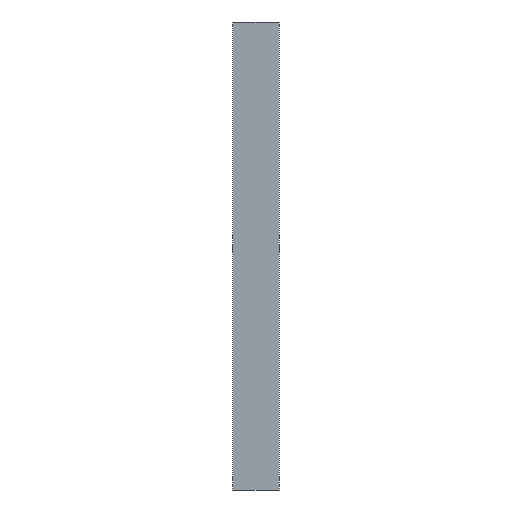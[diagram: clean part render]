
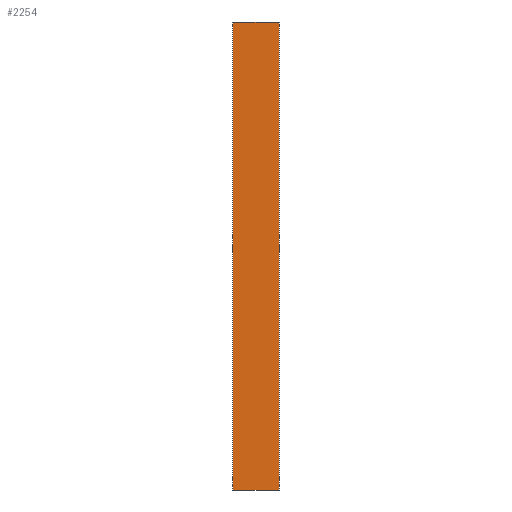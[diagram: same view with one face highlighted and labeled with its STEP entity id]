
A CAD part, front view. The second image highlights one B-rep face of the part: STEP entity #2254.
In plain terms, the highlighted planar face has unit normal (0, -1, 0).
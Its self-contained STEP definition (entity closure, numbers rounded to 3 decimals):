
#38 = CARTESIAN_POINT ( 'NONE',  ( -150., 0., 1500. ) ) ;
#199 = CARTESIAN_POINT ( 'NONE',  ( 150., 0., 1500. ) ) ;
#233 = ORIENTED_EDGE ( 'NONE', *, *, #899, .T. ) ;
#290 = EDGE_CURVE ( 'NONE', #565, #874, #1413, .T. ) ;
#313 = EDGE_CURVE ( 'NONE', #2463, #874, #1400, .T. ) ;
#333 = AXIS2_PLACEMENT_3D ( 'NONE', #38, #628, #1792 ) ;
#455 = DIRECTION ( 'NONE',  ( 0., 0., -1. ) ) ;
#562 = DIRECTION ( 'NONE',  ( 0., 0., -1. ) ) ;
#565 = VERTEX_POINT ( 'NONE', #2209 ) ;
#576 = VERTEX_POINT ( 'NONE', #1840 ) ;
#628 = DIRECTION ( 'NONE',  ( 0., 1., 0. ) ) ;
#640 = VECTOR ( 'NONE', #1240, 1000. ) ;
#735 = VECTOR ( 'NONE', #562, 1000. ) ;
#874 = VERTEX_POINT ( 'NONE', #2404 ) ;
#898 = ORIENTED_EDGE ( 'NONE', *, *, #2261, .F. ) ;
#899 = EDGE_CURVE ( 'NONE', #576, #565, #2085, .T. ) ;
#1035 = PLANE ( 'NONE',  #333 ) ;
#1045 = ORIENTED_EDGE ( 'NONE', *, *, #313, .F. ) ;
#1064 = CARTESIAN_POINT ( 'NONE',  ( -150., 0., 1500. ) ) ;
#1091 = VECTOR ( 'NONE', #455, 1000. ) ;
#1161 = CARTESIAN_POINT ( 'NONE',  ( -150., 0., 1500. ) ) ;
#1240 = DIRECTION ( 'NONE',  ( 1., 0., 0. ) ) ;
#1400 = LINE ( 'NONE', #2164, #1091 ) ;
#1413 = LINE ( 'NONE', #2177, #640 ) ;
#1626 = LINE ( 'NONE', #1064, #2423 ) ;
#1667 = EDGE_LOOP ( 'NONE', ( #2064, #1045, #898, #233 ) ) ;
#1792 = DIRECTION ( 'NONE',  ( -1., 0., 0. ) ) ;
#1804 = DIRECTION ( 'NONE',  ( 1., 0., 0. ) ) ;
#1840 = CARTESIAN_POINT ( 'NONE',  ( -150., 0., 1500. ) ) ;
#1982 = FACE_OUTER_BOUND ( 'NONE', #1667, .T. ) ;
#2064 = ORIENTED_EDGE ( 'NONE', *, *, #290, .T. ) ;
#2085 = LINE ( 'NONE', #1161, #735 ) ;
#2164 = CARTESIAN_POINT ( 'NONE',  ( 150., 0., 1500. ) ) ;
#2177 = CARTESIAN_POINT ( 'NONE',  ( -150., 0., -1500. ) ) ;
#2209 = CARTESIAN_POINT ( 'NONE',  ( -150., 0., -1500. ) ) ;
#2254 = ADVANCED_FACE ( 'NONE', ( #1982 ), #1035, .F. ) ;
#2261 = EDGE_CURVE ( 'NONE', #576, #2463, #1626, .T. ) ;
#2404 = CARTESIAN_POINT ( 'NONE',  ( 150., 0., -1500. ) ) ;
#2423 = VECTOR ( 'NONE', #1804, 1000. ) ;
#2463 = VERTEX_POINT ( 'NONE', #199 ) ;
